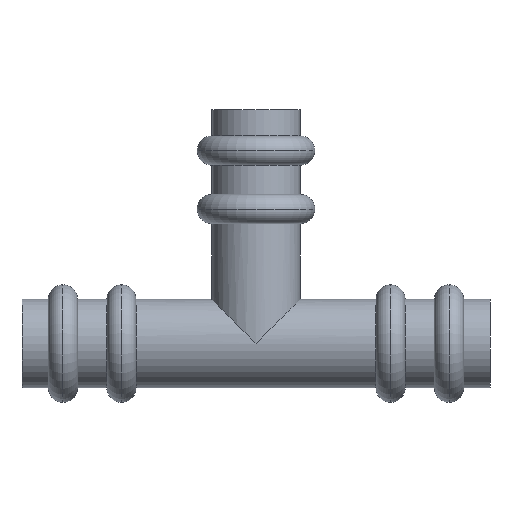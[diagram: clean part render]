
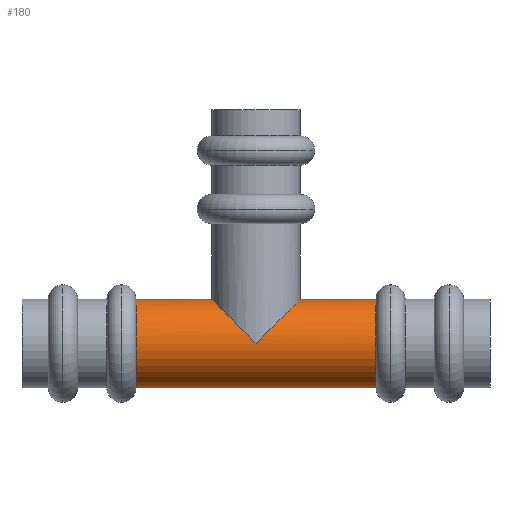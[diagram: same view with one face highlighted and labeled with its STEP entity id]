
A CAD part, front view. The second image highlights one B-rep face of the part: STEP entity #180.
In plain terms, the highlighted cylindrical face has radius 7.55 mm (diameter 15.1 mm), a partial arc.
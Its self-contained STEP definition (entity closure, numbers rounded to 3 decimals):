
#180=ADVANCED_FACE('',(#436),#437,.T.);
#436=FACE_OUTER_BOUND('',#780,.T.);
#437=CYLINDRICAL_SURFACE('',#781,7.55);
#780=EDGE_LOOP('',(#1238,#1239,#1240,#1241,#1242,#1243,#1244));
#781=AXIS2_PLACEMENT_3D('',#1245,#1246,#1247);
#1238=ORIENTED_EDGE('',*,*,#2015,.F.);
#1239=ORIENTED_EDGE('',*,*,#1946,.F.);
#1240=ORIENTED_EDGE('',*,*,#2016,.F.);
#1241=ORIENTED_EDGE('',*,*,#2017,.T.);
#1242=ORIENTED_EDGE('',*,*,#2018,.T.);
#1243=ORIENTED_EDGE('',*,*,#2019,.F.);
#1244=ORIENTED_EDGE('',*,*,#1966,.F.);
#1245=CARTESIAN_POINT('',(34.,0.0,0.));
#1246=DIRECTION('',(-1.0,0.0,0.0));
#1247=DIRECTION('',(0.0,0.0,-1.0));
#1946=EDGE_CURVE('',#2297,#2299,#2300,.T.);
#1966=EDGE_CURVE('',#2333,#2335,#2336,.T.);
#2015=EDGE_CURVE('',#2299,#2333,#2393,.T.);
#2016=EDGE_CURVE('',#2394,#2297,#2395,.T.);
#2017=EDGE_CURVE('',#2394,#2396,#2397,.T.);
#2018=EDGE_CURVE('',#2396,#2398,#2399,.T.);
#2019=EDGE_CURVE('',#2335,#2398,#2400,.T.);
#2297=VERTEX_POINT('',#2755);
#2299=VERTEX_POINT('',#2757);
#2300=CIRCLE('',#2758,7.55);
#2333=VERTEX_POINT('',#2791);
#2335=VERTEX_POINT('',#2793);
#2336=CIRCLE('',#2794,7.55);
#2393=LINE('',#2851,#2852);
#2394=VERTEX_POINT('',#2853);
#2395=LINE('',#2854,#2855);
#2396=VERTEX_POINT('',#2856);
#2397=ELLIPSE('',#2857,10.677,7.55);
#2398=VERTEX_POINT('',#2858);
#2399=ELLIPSE('',#2859,10.677,7.55);
#2400=LINE('',#2860,#2861);
#2755=CARTESIAN_POINT('',(60.5,0.,7.55));
#2757=CARTESIAN_POINT('',(60.5,0.,-7.55));
#2758=AXIS2_PLACEMENT_3D('',#3276,#3277,#3278);
#2791=CARTESIAN_POINT('',(19.5,0.,-7.55));
#2793=CARTESIAN_POINT('',(19.5,0.,7.55));
#2794=AXIS2_PLACEMENT_3D('',#3324,#3325,#3326);
#2851=CARTESIAN_POINT('',(34.,0.,-7.55));
#2852=VECTOR('',#3426,1.0);
#2853=CARTESIAN_POINT('',(47.55,0.,7.55));
#2854=CARTESIAN_POINT('',(34.,0.,7.55));
#2855=VECTOR('',#3427,1.0);
#2856=CARTESIAN_POINT('',(40.,-7.55,0.0));
#2857=AXIS2_PLACEMENT_3D('',#3428,#3429,#3430);
#2858=CARTESIAN_POINT('',(32.45,0.,7.55));
#2859=AXIS2_PLACEMENT_3D('',#3431,#3432,#3433);
#2860=CARTESIAN_POINT('',(34.,0.,7.55));
#2861=VECTOR('',#3434,1.0);
#3276=CARTESIAN_POINT('',(60.5,0.0,0.));
#3277=DIRECTION('',(1.0,0.0,-0.0));
#3278=DIRECTION('',(0.0,0.0,1.0));
#3324=CARTESIAN_POINT('',(19.5,0.0,0.));
#3325=DIRECTION('',(-1.0,0.0,0.));
#3326=DIRECTION('',(0.,0.0,-1.0));
#3426=DIRECTION('',(-1.0,0.0,0.0));
#3427=DIRECTION('',(1.0,-0.0,-0.0));
#3428=CARTESIAN_POINT('',(40.,0.0,0.));
#3429=DIRECTION('',(0.707,0.0,-0.707));
#3430=DIRECTION('',(0.707,0.0,0.707));
#3431=CARTESIAN_POINT('',(40.,0.0,0.));
#3432=DIRECTION('',(-0.707,-0.0,-0.707));
#3433=DIRECTION('',(0.707,0.0,-0.707));
#3434=DIRECTION('',(1.0,-0.0,-0.0));
